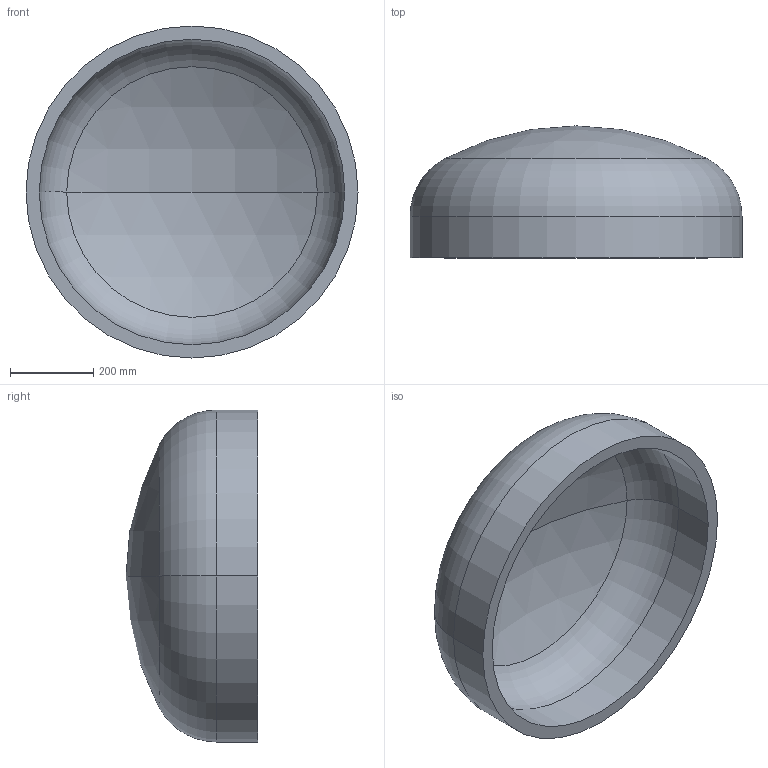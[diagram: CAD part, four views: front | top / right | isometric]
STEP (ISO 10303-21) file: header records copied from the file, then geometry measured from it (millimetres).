
FILE_DESCRIPTION (( 'STEP AP203' ), '1' );
FILE_NAME ('DIN 28013 Korbbogenform_-_Boden DIN 28013 - 800 x 100 - I - s=32.step', '2016-07-01T08:15:26', ( '' ), ( '' ), 'SwSTEP 2.0', 'SolidWorks 2013', '' );
FILE_SCHEMA (( 'CONFIG_CONTROL_DESIGN' ));
Length unit declared in the file: millimetre
Products named in the file (1): DIN 28013 Korbbogenform_-_Boden DIN 28013 - 800 x 100 - I - s=32
Bounding box: 800 x 317.93 x 800 mm (x, y, z)
Volume: 28935748.9 mm3; surface area: 1887836.3 mm2
Topology: 1 solids, 1 shells, 13 faces, 24 edges, 14 vertices
Faces by surface type: torus 4, cylinder 4, sphere 4, plane 1
Entity records: 407 total; most frequent: DIRECTION 72, CARTESIAN_POINT 52, ORIENTED_EDGE 48, AXIS2_PLACEMENT_3D 34, EDGE_CURVE 24, CIRCLE 20, EDGE_LOOP 14, VERTEX_POINT 14
